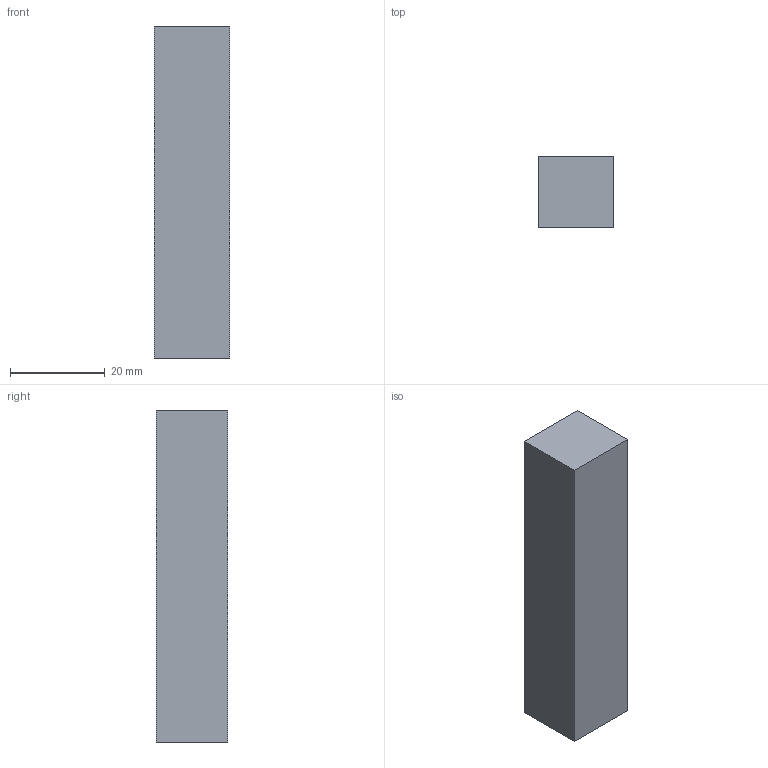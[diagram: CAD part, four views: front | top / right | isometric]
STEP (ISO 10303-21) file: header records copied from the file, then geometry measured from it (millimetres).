
FILE_DESCRIPTION(('FreeCAD Model'),'2;1');
FILE_NAME('Open CASCADE Shape Model','2026-10-20T16:17:42',('FreeCAD'),( 'FreeCAD'),'Open CASCADE STEP processor 7.8','FreeCAD','Unknown');
FILE_SCHEMA(('AUTOMOTIVE_DESIGN { 1 0 10303 214 1 1 1 1 }'));
Length unit declared in the file: millimetre
Products named in the file (1): Open CASCADE STEP translator 7.8 5
Bounding box: 16 x 15 x 70 mm (x, y, z)
Volume: 16800 mm3; surface area: 4820 mm2
Topology: 1 solids, 1 shells, 6 faces, 12 edges, 8 vertices
Faces by surface type: plane 6
Entity records: 166 total; most frequent: CARTESIAN_POINT 27, DIRECTION 26, ORIENTED_EDGE 24, EDGE_CURVE 12, LINE 12, VECTOR 12, VERTEX_POINT 8, AXIS2_PLACEMENT_3D 7
